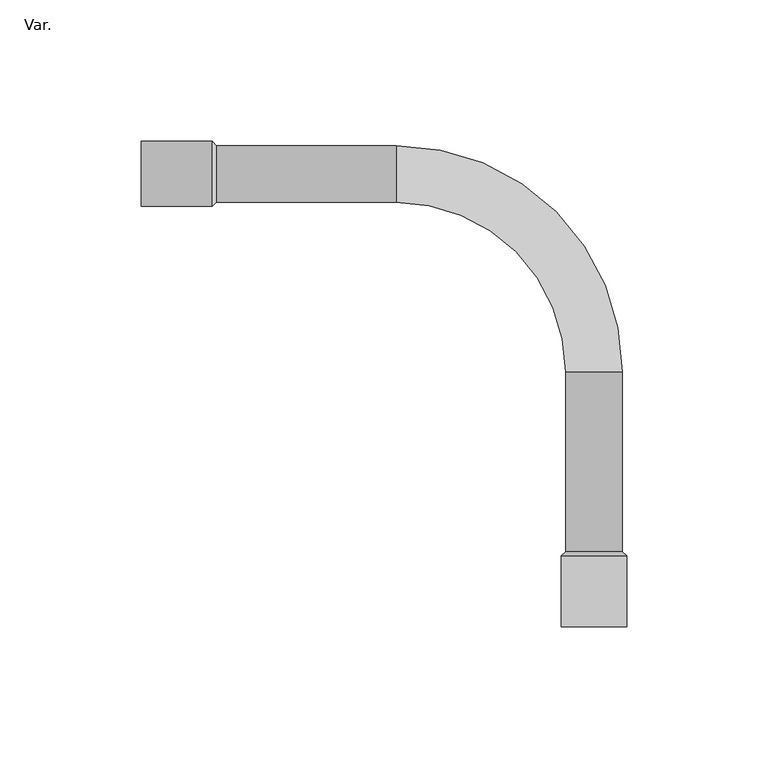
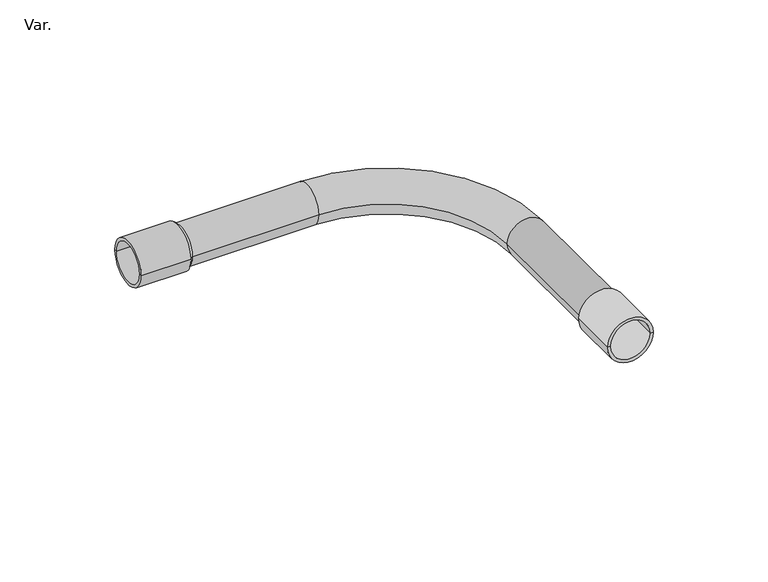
"""IFC4 building model written with IfcOpenShell, lengths in millimetres: cable carrier fitting geometry, AmancoWavin_ConexõesdoConduite_LinhaEletricaSoldavelCurva : Var.."""

from ifc_helpers import new_model, si_unit, point, frame, origin, place, context, project, spatial, polyline, circle_curve, ellipse_curve, trimmed, source, transform, mapped, element, save
from ifc_brep_helpers import plane_surface, cylinder_surface, revolved_surface, advanced_brep


def var_770de3e1(model_context):
    return source(origin(), model_context, "Body", "AdvancedBrep", [
        advanced_brep(
        [(-11.5, -135.0, 0.0), (-10.0, -133.5, 0.0), (10.0, -133.5, 0.0), (11.5, -135.0, 0.0), (-11.5, -160.0, 0.0), (11.5, -160.0, 0.0), (-10.0, -160.0, 0.0), (10.0, -160.0, 0.0)],
        [
            (0, 1),
            (1, 2, circle_curve(frame((0.0, -133.5, 0.0), z_axis=(0.0, -1.0, 0.0), x_axis=(1.0, 0.0, 0.0)), 10.0)),
            (2, 3),
            (3, 0, circle_curve(frame((0.0, -135.0, 0.0), z_axis=(0.0, 1.0, 0.0), x_axis=(1.0, 0.0, 0.0)), 11.5)),
            (2, 1, circle_curve(frame((0.0, -133.5, 0.0), z_axis=(0.0, -1.0, 0.0), x_axis=(1.0, 0.0, 0.0)), 10.0)),
            (0, 3, circle_curve(frame((0.0, -135.0, 0.0), z_axis=(0.0, 1.0, 0.0), x_axis=(1.0, 0.0, 0.0)), 11.5)),
            (4, 0),
            (3, 5),
            (5, 4, circle_curve(frame((0.0, -160.0, 0.0), z_axis=(0.0, 1.0, 0.0), x_axis=(1.0, 0.0, 0.0)), 11.5)),
            (4, 5, circle_curve(frame((0.0, -160.0, 0.0), z_axis=(0.0, 1.0, 0.0), x_axis=(1.0, 0.0, 0.0)), 11.5)),
            (6, 4),
            (5, 7),
            (7, 6, circle_curve(frame((0.0, -160.0, 0.0), z_axis=(0.0, 1.0, 0.0), x_axis=(1.0, 0.0, 0.0)), 10.0)),
            (6, 7, circle_curve(frame((0.0, -160.0, 0.0), z_axis=(0.0, 1.0, 0.0), x_axis=(1.0, 0.0, 0.0)), 10.0)),
            (1, 6),
            (7, 2),
        ],
        [
            revolved_surface(polyline([(10.0, -133.5, 0.0), (11.5, -135.0, 0.0)]), (0.0, -2000.0, 0.0), (0.0, -1.0, 0.0)),
            cylinder_surface(frame((0.0, -2000.0, 0.0), z_axis=(0.0, -1.0, 0.0), x_axis=(1.0, 0.0, 0.0)), 11.5),
            plane_surface(frame((0.0, -160.0, 0.0), z_axis=(0.0, -1.0, 0.0), x_axis=(1.0, 0.0, 0.0))),
            revolved_surface(polyline([(10.0, -160.0, 0.0), (10.0, -133.5, 0.0)]), (0.0, -2000.0, 0.0), (0.0, -1.0, 0.0)),
        ],
        [
            (0, [[1, 2, 3, 4]]),
            (0, [[-3, 5, -1, 6]]),
            (1, [[7, -4, 8, 9]]),
            (1, [[-8, -6, -7, 10]]),
            (2, [[11, -9, 12, 13]]),
            (2, [[-12, -10, -11, 14]]),
            (3, [[15, -13, 16, -2]]),
            (3, [[-16, -14, -15, -5]]),
        ],
    ),
        advanced_brep(
        [(-133.5, 10.0, 0.0), (-160.0, 10.0, 0.0), (-160.0, -10.0, 0.0), (-133.5, -10.0, 0.0), (-135.0, 11.5, 0.0), (-135.0, -11.5, 0.0), (-160.0, 11.5, 0.0), (-160.0, -11.5, 0.0)],
        [
            (0, 1),
            (1, 2, circle_curve(frame((-160.0, 0.0, 0.0), z_axis=(-1.0, 0.0, 0.0), x_axis=(0.0, -1.0, 0.0)), 10.0)),
            (2, 3),
            (3, 0, circle_curve(frame((-133.5, 0.0, 0.0), z_axis=(1.0, 0.0, 0.0), x_axis=(0.0, -1.0, 0.0)), 10.0)),
            (2, 1, circle_curve(frame((-160.0, 0.0, 0.0), z_axis=(-1.0, 0.0, 0.0), x_axis=(0.0, -1.0, 0.0)), 10.0)),
            (0, 3, circle_curve(frame((-133.5, 0.0, 0.0), z_axis=(1.0, 0.0, 0.0), x_axis=(0.0, -1.0, 0.0)), 10.0)),
            (4, 0),
            (3, 5),
            (5, 4, circle_curve(frame((-135.0, 0.0, 0.0), z_axis=(1.0, 0.0, 0.0), x_axis=(0.0, -1.0, 0.0)), 11.5)),
            (4, 5, circle_curve(frame((-135.0, 0.0, 0.0), z_axis=(1.0, 0.0, 0.0), x_axis=(0.0, -1.0, 0.0)), 11.5)),
            (6, 4),
            (5, 7),
            (7, 6, circle_curve(frame((-160.0, 0.0, 0.0), z_axis=(1.0, 0.0, 0.0), x_axis=(0.0, -1.0, 0.0)), 11.5)),
            (6, 7, circle_curve(frame((-160.0, 0.0, 0.0), z_axis=(1.0, 0.0, 0.0), x_axis=(0.0, -1.0, 0.0)), 11.5)),
            (1, 6),
            (7, 2),
        ],
        [
            revolved_surface(polyline([(-160.0, -10.0, 0.0), (-133.5, -10.0, 0.0)]), (2000.0, 0.0, 0.0), (-1.0, 0.0, 0.0)),
            revolved_surface(polyline([(-133.5, -10.0, 0.0), (-135.0, -11.5, 0.0)]), (2000.0, 0.0, 0.0), (-1.0, 0.0, 0.0)),
            cylinder_surface(frame((2000.0, 0.0, 0.0), z_axis=(-1.0, 0.0, 0.0), x_axis=(0.0, -1.0, 0.0)), 11.5),
            plane_surface(frame((-160.0, 0.0, 0.0), z_axis=(-1.0, 0.0, 0.0), x_axis=(0.0, -1.0, 0.0))),
        ],
        [
            (0, [[1, 2, 3, 4]]),
            (0, [[-3, 5, -1, 6]]),
            (1, [[7, -4, 8, 9]]),
            (1, [[-8, -6, -7, 10]]),
            (2, [[11, -9, 12, 13]]),
            (2, [[-12, -10, -11, 14]]),
            (3, [[15, -13, 16, -2]]),
            (3, [[-16, -14, -15, -5]]),
        ],
    ),
        advanced_brep(
        [(-135.0, 10.0, 0.0), (-135.0, -10.0, 0.0), (-70.0, -10.0, 0.0), (-70.0, 10.0, 0.0), (-10.0, -70.0, 0.0), (10.0, -70.0, 0.0), (10.0, -135.0, 0.0), (-10.0, -135.0, 0.0)],
        [
            (0, 1, circle_curve(frame((-135.0, 0.0, 0.0), z_axis=(-1.0, 0.0, 0.0), x_axis=(0.0, -1.0, 0.0)), 10.0)),
            (1, 0, circle_curve(frame((-135.0, 0.0, 0.0), z_axis=(-1.0, 0.0, 0.0), x_axis=(0.0, -1.0, 0.0)), 10.0)),
            (1, 2),
            (2, 3, circle_curve(frame((-70.0, 0.0, 0.0), z_axis=(-1.0, 0.0, 0.0), x_axis=(0.0, -1.0, 0.0)), 10.0)),
            (3, 0),
            (3, 2, circle_curve(frame((-70.0, 0.0, 0.0), z_axis=(-1.0, 0.0, 0.0), x_axis=(0.0, -1.0, 0.0)), 10.0)),
            (4, 5, circle_curve(frame((0.0, -70.0, 0.0), z_axis=(0.0, 1.0, 0.0), x_axis=(-1.0, 0.0, 0.0)), 10.0)),
            (5, 3, circle_curve(frame((-70.0, -70.0, 0.0), z_axis=(0.0, 0.0, 1.0), x_axis=(0.0, 1.0, 0.0)), 80.0)),
            (2, 4, circle_curve(frame((-70.0, -70.0, 0.0), z_axis=(0.0, 0.0, -1.0), x_axis=(0.0, 1.0, 0.0)), 60.0)),
            (5, 4, circle_curve(frame((0.0, -70.0, 0.0), z_axis=(0.0, 1.0, 0.0), x_axis=(-1.0, 0.0, 0.0)), 10.0)),
            (6, 7, circle_curve(frame((0.0, -135.0, 0.0), z_axis=(0.0, -1.0, 0.0), x_axis=(-1.0, 0.0, 0.0)), 10.0)),
            (7, 6, circle_curve(frame((0.0, -135.0, 0.0), z_axis=(0.0, -1.0, 0.0), x_axis=(-1.0, 0.0, 0.0)), 10.0)),
            (4, 7),
            (6, 5),
        ],
        [
            plane_surface(frame((-135.0, 0.0, 0.0), z_axis=(-1.0, 0.0, 0.0), x_axis=(0.0, 0.0, 1.0))),
            cylinder_surface(frame((-135.0, 0.0, 0.0), z_axis=(-1.0, 0.0, 0.0), x_axis=(0.0, -1.0, 0.0)), 10.0),
            revolved_surface(trimmed(ellipse_curve(frame((-70.0, 0.0, 0.0), z_axis=(1.0, 0.0, 0.0), x_axis=(0.0, -1.0, 0.0)), 10.0, 10.0), [point((-70.0, 10.0, 0.0))], [point((-70.0, -10.0, 0.0))], True, "CARTESIAN"), (-70.0, -70.0, 0.0), (0.0, 0.0, 1.0)),
            revolved_surface(trimmed(ellipse_curve(frame((-70.0, 0.0, 0.0), z_axis=(1.0, 0.0, 0.0), x_axis=(0.0, -1.0, 0.0)), 10.0, 10.0), [point((-70.0, -10.0, 0.0))], [point((-70.0, 10.0, 0.0))], True, "CARTESIAN"), (-70.0, -70.0, 0.0), (0.0, 0.0, 1.0)),
            plane_surface(frame((0.0, -135.0, 0.0), z_axis=(0.0, -1.0, 0.0), x_axis=(0.0, 0.0, 1.0))),
            cylinder_surface(frame((0.0, -70.0, 0.0), z_axis=(0.0, 1.0, 0.0), x_axis=(-1.0, 0.0, 0.0)), 10.0),
        ],
        [
            (0, [[1, 2]]),
            (1, [[3, 4, 5, -2]]),
            (1, [[-5, 6, -3, -1]]),
            (2, [[7, 8, -4, 9]]),
            (3, [[10, -9, -6, -8]]),
            (4, [[11, 12]]),
            (5, [[13, -11, 14, -7]]),
            (5, [[-14, -12, -13, -10]]),
        ],
    ),
    ])


if __name__ == "__main__":
    model = new_model("IFC4")
    model_context = context("Model", 3, world=origin())
    ifc_project = project(units=[si_unit("LENGTHUNIT", "METRE", prefix="MILLI")], contexts=[model_context])
    site = spatial("IfcSite", under=ifc_project)
    building = spatial("IfcBuilding", under=site)
    placement = place(None, origin())
    var_shape = var_770de3e1(model_context)
    element("IfcCableCarrierFitting", 1, ObjectType="AmancoWavin_ConexõesdoConduite_LinhaEletricaSoldavelCurva : Var.", at=placement, inside=building, context=model_context, shape_type="MappedRepresentation", body=[
        mapped(var_shape, transform((0.0, 0.0, 0.0), x_axis=(1.0, 0.0, 0.0), y_axis=(0.0, 1.0, 0.0), z_axis=(0.0, 0.0, 1.0))),
    ])
    save(model, "model.ifc")
